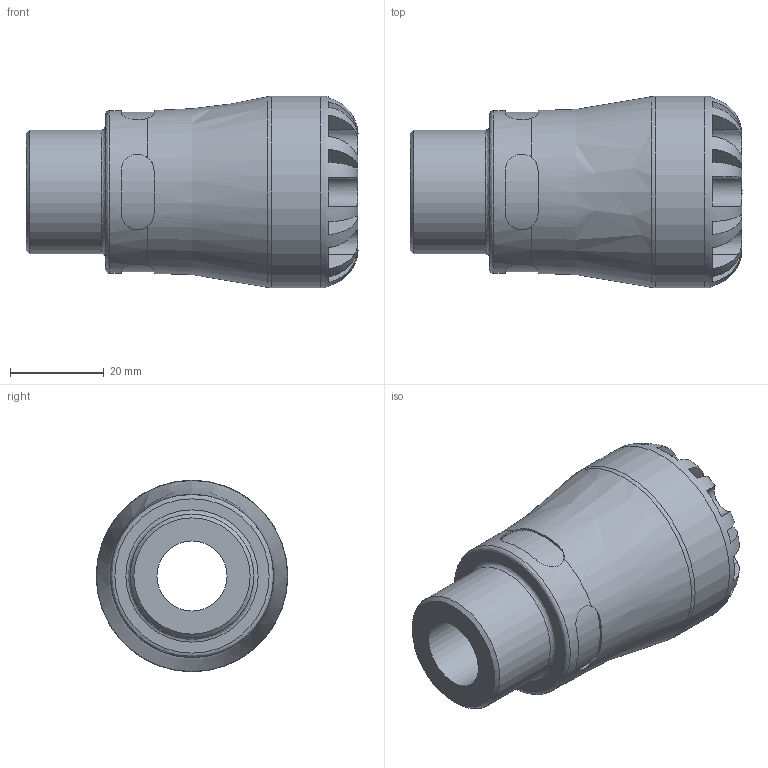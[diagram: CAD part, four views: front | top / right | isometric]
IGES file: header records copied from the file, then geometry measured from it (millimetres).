
Global section: file name: 100200020007_190200020007.ipt; native system: Autodesk Inventor 2015; preprocessor: unknown; author: KIM; date: 20170727.143939; units: millimetre
Bounding box: 71 x 41 x 41 mm (x, y, z)
Volume: 48102.7 mm3; surface area: 14503.3 mm2
Topology: 1 solids, 1 shells, 100 faces, 268 edges, 172 vertices
Faces by surface type: plane 60, revolution 24, cylinder 15, cone 1
Full cylindrical faces by diameter (mm): 26.441 x1, 34.85 x1, 41 x1
